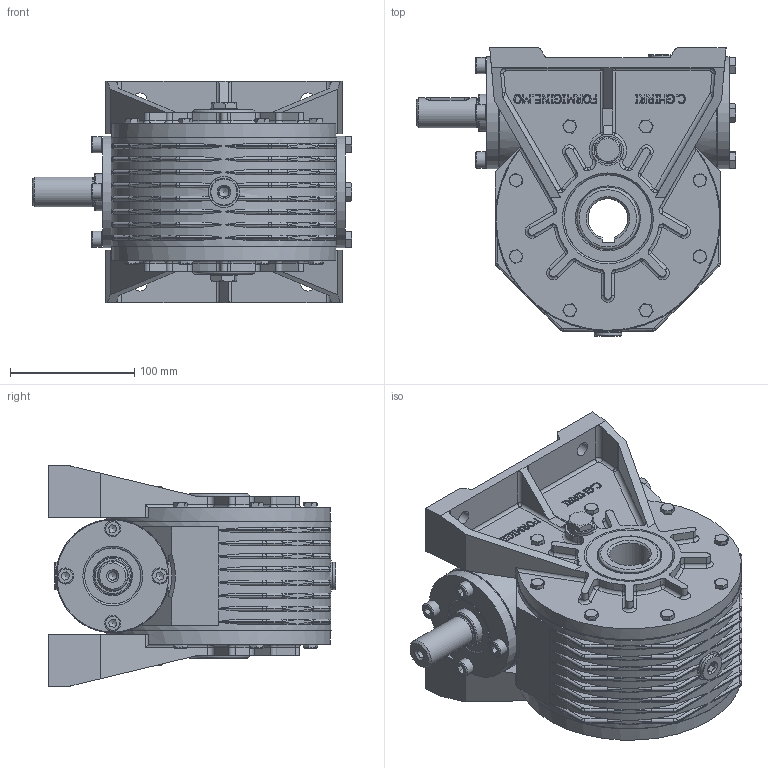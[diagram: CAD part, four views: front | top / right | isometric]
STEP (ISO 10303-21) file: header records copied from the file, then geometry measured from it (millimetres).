
FILE_DESCRIPTION((''),'2;1');
FILE_NAME('Y:\Archivi Inventor\Prog_01\GRAND_40\figurini\MRV40_SITO\RV40\RV40_P1.stp','2013-02-11T10:13:46',('tech3'),(''),'Autodesk Inventor 2013','Autodesk Inventor 2013','');
FILE_SCHEMA(('AUTOMOTIVE_DESIGN { 1 0 10303 214 1 1 1 1 }'));
Length unit declared in the file: millimetre
Products named in the file (18): RV40_FIG (Livello di dettaglio1); MRV40 figurino (~1); 0104001.A0 figurino; 0104009.A0 figurino; 0104028; 0104029; fig_mozzo corona. MRV-RV40cusc_conici; PARAOLIO 50x70x10; Guarnizione 3_8 GAS; Tappo 3_8 GAS_esagn_incsst; Tappo3_8 GAS; 0104010.A0 figurino; UNI 5739  M6 x 20; UNI 5931  M 8 x  25; UNI 5739 M8 x 20; 0104012; fig_0104011-A0; PARAOLIO 30x45x8
Assembly tree (47 placements, depth 3):
  RV40_FIG (Livello di dettaglio1)
    MRV40 figurino (~1)
      0104001.A0 figurino
      0104009.A0 figurino
      0104028  x2
      0104029  x2
      fig_mozzo corona. MRV-RV40cusc_conici
      PARAOLIO 50x70x10  x2
      Guarnizione 3_8 GAS  x4
      Tappo 3_8 GAS_esagn_incsst  x2
      Tappo3_8 GAS  x2
      0104010.A0 figurino  x2
      UNI 5739  M6 x 20  x16
      UNI 5931  M 8 x  25  x4
      UNI 5739 M8 x 20  x4
    0104012
    fig_0104011-A0
    PARAOLIO 30x45x8
Bounding box: 256.7 x 231.5 x 177.7 mm (x, y, z)
Volume: 4032819.3 mm3; surface area: 543481.4 mm2
Topology: 46 solids, 46 shells, 2154 faces, 5333 edges, 3321 vertices
Faces by surface type: plane 978, cylinder 531, bspline 334, cone 189, torus 114, sphere 8
Full cylindrical faces by diameter (mm): 2 x2, 4.917 x16, 6 x16, 6.5 x32, 6.647 x1, 8 x10, 8.5 x12, 8.75 x4, 8.88 x16, 11.5 x4, 11.63 x4, 13 x4, 13.046 x2, 14.95 x4, 16.3 x4, 16.5 x2, 22 x8, 23.4 x1, 24 x1, 25 x2, 30 x1, 34.105 x1, 42 x1, 45 x2, 50 x1, 52 x1, 55 x1, 56.381 x2, 62 x3, 65 x2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
Entity records: 42861 total; most frequent: CARTESIAN_POINT 14271, ORIENTED_EDGE 5708, DIRECTION 5448, EDGE_CURVE 2854, AXIS2_PLACEMENT_3D 2053, VERTEX_POINT 1866, EDGE_LOOP 1478, VECTOR 1342
